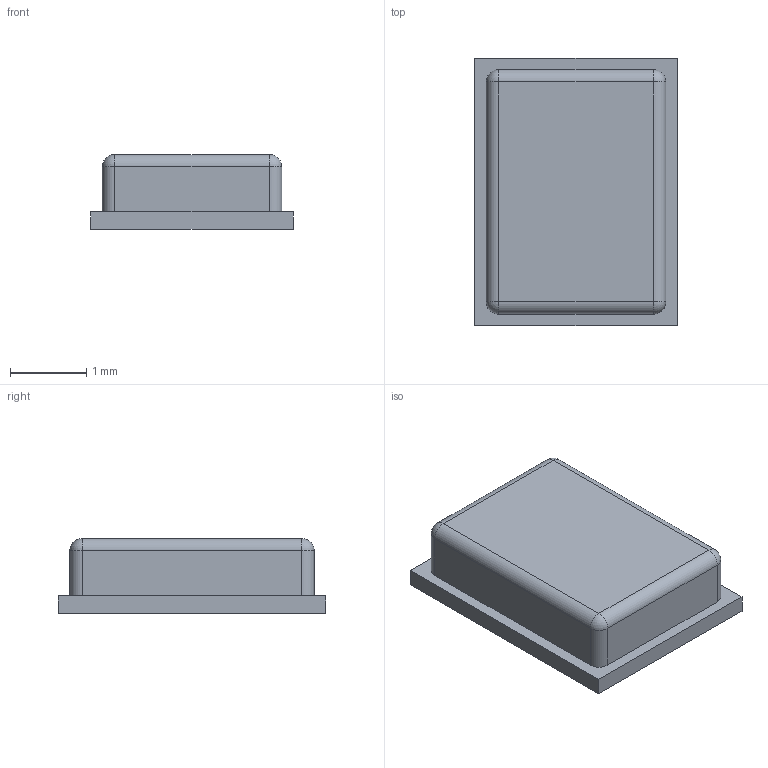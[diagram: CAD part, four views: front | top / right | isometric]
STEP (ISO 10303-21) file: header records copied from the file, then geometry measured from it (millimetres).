
FILE_DESCRIPTION(('FreeCAD Model'),'2;1');
FILE_NAME('Open CASCADE Shape Model','2025-02-04T20:14:25',( 'Krisjanis Rijnieks'),(''),'Open CASCADE STEP processor 7.7', 'FreeCAD','Unknown');
FILE_SCHEMA(('AUTOMOTIVE_DESIGN { 1 0 10303 214 1 1 1 1 }'));
Length unit declared in the file: millimetre
Products named in the file (3): ICS-43434; Body; Body001
Assembly tree (2 placements, depth 2):
  ICS-43434
    Body
    Body001
Bounding box: 2.65 x 3.5 x 0.98 mm (x, y, z)
Volume: 7.7 mm3; surface area: 43.7 mm2
Topology: 2 solids, 2 shells, 24 faces, 52 edges, 28 vertices
Faces by surface type: plane 12, cylinder 8, sphere 4
Entity records: 679 total; most frequent: DIRECTION 118, CARTESIAN_POINT 103, ORIENTED_EDGE 96, EDGE_CURVE 48, AXIS2_PLACEMENT_3D 43, LINE 32, VECTOR 32, VERTEX_POINT 28
